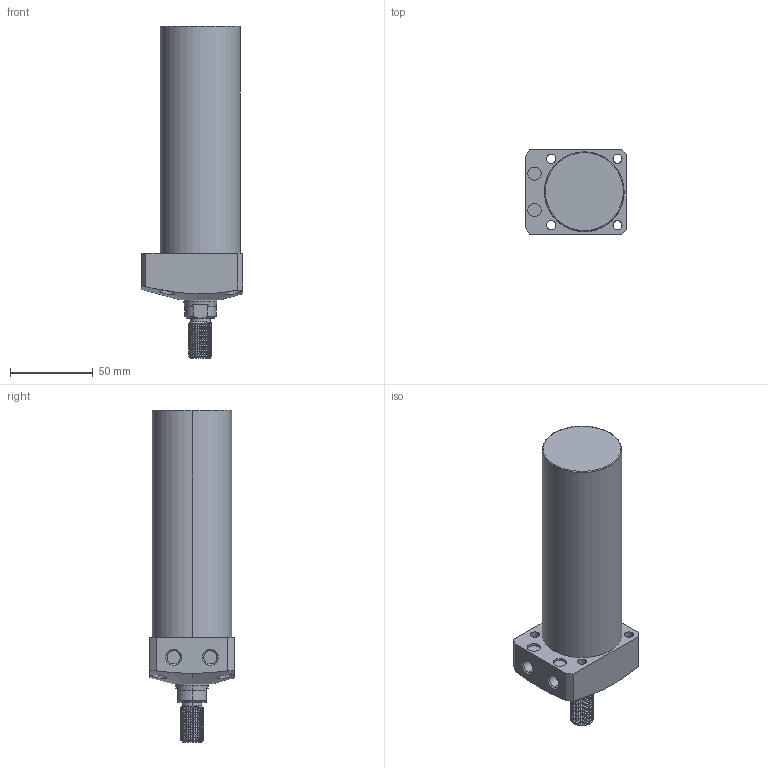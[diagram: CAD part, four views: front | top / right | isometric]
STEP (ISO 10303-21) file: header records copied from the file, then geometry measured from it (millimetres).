
FILE_DESCRIPTION (( 'STEP AP203' ), '1' );
FILE_NAME ('CLL-048CT-110.STEP', '2020-01-08T10:12:34', ( '' ), ( '' ), 'SwSTEP 2.0', 'SolidWorks 2015', '' );
FILE_SCHEMA (( 'CONFIG_CONTROL_DESIGN' ));
Length unit declared in the file: millimetre
Products named in the file (1): CLL-048CT-110
Bounding box: 61 x 51 x 200 mm (x, y, z)
Volume: 326904.6 mm3; surface area: 36693.8 mm2
Topology: 1 solids, 1 shells, 122 faces, 310 edges, 201 vertices
Faces by surface type: cylinder 77, plane 24, cone 17, torus 2, bspline 2
Entity records: 6465 total; most frequent: CARTESIAN_POINT 3664, ORIENTED_EDGE 620, DIRECTION 522, EDGE_CURVE 310, AXIS2_PLACEMENT_3D 206, VERTEX_POINT 201, EDGE_LOOP 141, FACE_OUTER_BOUND 122
